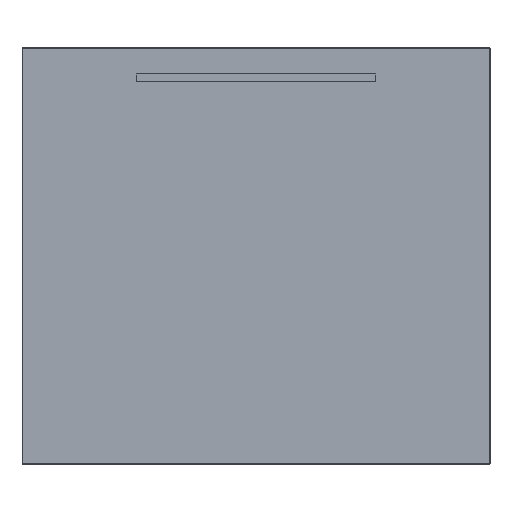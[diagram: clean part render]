
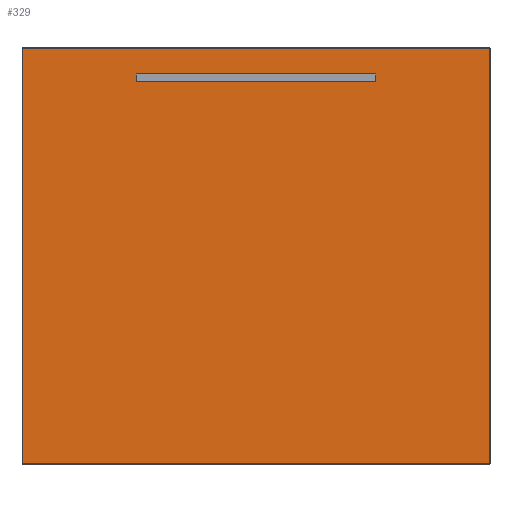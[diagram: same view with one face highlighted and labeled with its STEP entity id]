
A CAD part, top view. The second image highlights one B-rep face of the part: STEP entity #329.
In plain terms, the highlighted planar face has unit normal (0, 0, 1).
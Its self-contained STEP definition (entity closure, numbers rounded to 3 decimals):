
#7 = CARTESIAN_POINT ( 'NONE',  ( 449.5, -399.5, 4. ) ) ;
#17 = CARTESIAN_POINT ( 'NONE',  ( 449.5, 399.5, 4. ) ) ;
#82 = DIRECTION ( 'NONE',  ( 0., 1., 0. ) ) ;
#123 = FACE_BOUND ( 'NONE', #909, .T. ) ;
#190 = ORIENTED_EDGE ( 'NONE', *, *, #736, .T. ) ;
#203 = CARTESIAN_POINT ( 'NONE',  ( -230., 350., 4. ) ) ;
#239 = EDGE_CURVE ( 'NONE', #1349, #1691, #1288, .T. ) ;
#244 = VERTEX_POINT ( 'NONE', #309 ) ;
#277 = EDGE_CURVE ( 'NONE', #872, #1349, #896, .T. ) ;
#288 = LINE ( 'NONE', #1100, #939 ) ;
#294 = DIRECTION ( 'NONE',  ( 0., -1., 0. ) ) ;
#296 = LINE ( 'NONE', #1852, #1741 ) ;
#309 = CARTESIAN_POINT ( 'NONE',  ( 230., 350., 4. ) ) ;
#329 = ADVANCED_FACE ( 'NONE', ( #123, #331 ), #1347, .F. ) ;
#331 = FACE_OUTER_BOUND ( 'NONE', #746, .T. ) ;
#398 = ORIENTED_EDGE ( 'NONE', *, *, #838, .F. ) ;
#429 = LINE ( 'NONE', #982, #1813 ) ;
#444 = EDGE_CURVE ( 'NONE', #1687, #244, #288, .T. ) ;
#460 = ORIENTED_EDGE ( 'NONE', *, *, #1627, .F. ) ;
#505 = VECTOR ( 'NONE', #1460, 1000. ) ;
#559 = CARTESIAN_POINT ( 'NONE',  ( 230., 335., 4. ) ) ;
#735 = CARTESIAN_POINT ( 'NONE',  ( 0., 399.5, 4. ) ) ;
#736 = EDGE_CURVE ( 'NONE', #886, #872, #1753, .T. ) ;
#746 = EDGE_LOOP ( 'NONE', ( #190, #922, #1630, #1013 ) ) ;
#763 = CARTESIAN_POINT ( 'NONE',  ( 0., -399.5, 4. ) ) ;
#776 = DIRECTION ( 'NONE',  ( 1., 0., 0. ) ) ;
#834 = ORIENTED_EDGE ( 'NONE', *, *, #444, .F. ) ;
#838 = EDGE_CURVE ( 'NONE', #244, #1076, #1333, .T. ) ;
#872 = VERTEX_POINT ( 'NONE', #17 ) ;
#886 = VERTEX_POINT ( 'NONE', #7 ) ;
#896 = LINE ( 'NONE', #735, #984 ) ;
#909 = EDGE_LOOP ( 'NONE', ( #1465, #460, #398, #834 ) ) ;
#922 = ORIENTED_EDGE ( 'NONE', *, *, #277, .T. ) ;
#939 = VECTOR ( 'NONE', #82, 1000. ) ;
#942 = CARTESIAN_POINT ( 'NONE',  ( -230., 335., 4. ) ) ;
#981 = VECTOR ( 'NONE', #1728, 1000. ) ;
#982 = CARTESIAN_POINT ( 'NONE',  ( -230., 350., 4. ) ) ;
#984 = VECTOR ( 'NONE', #1755, 1000. ) ;
#990 = DIRECTION ( 'NONE',  ( 0., -1., 0. ) ) ;
#1013 = ORIENTED_EDGE ( 'NONE', *, *, #1056, .T. ) ;
#1056 = EDGE_CURVE ( 'NONE', #1691, #886, #1306, .T. ) ;
#1076 = VERTEX_POINT ( 'NONE', #203 ) ;
#1100 = CARTESIAN_POINT ( 'NONE',  ( 230., 350., 4. ) ) ;
#1172 = CARTESIAN_POINT ( 'NONE',  ( -449.5, 0., 4. ) ) ;
#1225 = VERTEX_POINT ( 'NONE', #942 ) ;
#1260 = CARTESIAN_POINT ( 'NONE',  ( -449.5, 399.5, 4. ) ) ;
#1288 = LINE ( 'NONE', #1172, #1340 ) ;
#1306 = LINE ( 'NONE', #763, #1351 ) ;
#1333 = LINE ( 'NONE', #1774, #505 ) ;
#1340 = VECTOR ( 'NONE', #294, 1000. ) ;
#1347 = PLANE ( 'NONE',  #1705 ) ;
#1349 = VERTEX_POINT ( 'NONE', #1260 ) ;
#1351 = VECTOR ( 'NONE', #776, 1000. ) ;
#1393 = DIRECTION ( 'NONE',  ( 1., 0., 0. ) ) ;
#1443 = CARTESIAN_POINT ( 'NONE',  ( 449.5, 0., 4. ) ) ;
#1460 = DIRECTION ( 'NONE',  ( -1., 0., 0. ) ) ;
#1465 = ORIENTED_EDGE ( 'NONE', *, *, #1527, .F. ) ;
#1527 = EDGE_CURVE ( 'NONE', #1225, #1687, #296, .T. ) ;
#1627 = EDGE_CURVE ( 'NONE', #1076, #1225, #429, .T. ) ;
#1630 = ORIENTED_EDGE ( 'NONE', *, *, #239, .T. ) ;
#1645 = CARTESIAN_POINT ( 'NONE',  ( 0., 0., 4. ) ) ;
#1653 = DIRECTION ( 'NONE',  ( 0., 0., -1. ) ) ;
#1687 = VERTEX_POINT ( 'NONE', #559 ) ;
#1691 = VERTEX_POINT ( 'NONE', #1887 ) ;
#1705 = AXIS2_PLACEMENT_3D ( 'NONE', #1645, #1653, #1802 ) ;
#1728 = DIRECTION ( 'NONE',  ( 0., 1., 0. ) ) ;
#1741 = VECTOR ( 'NONE', #1393, 1000. ) ;
#1753 = LINE ( 'NONE', #1443, #981 ) ;
#1755 = DIRECTION ( 'NONE',  ( -1., 0., 0. ) ) ;
#1774 = CARTESIAN_POINT ( 'NONE',  ( -230., 350., 4. ) ) ;
#1802 = DIRECTION ( 'NONE',  ( -1., 0., 0. ) ) ;
#1813 = VECTOR ( 'NONE', #990, 1000. ) ;
#1852 = CARTESIAN_POINT ( 'NONE',  ( -230., 335., 4. ) ) ;
#1887 = CARTESIAN_POINT ( 'NONE',  ( -449.5, -399.5, 4. ) ) ;
